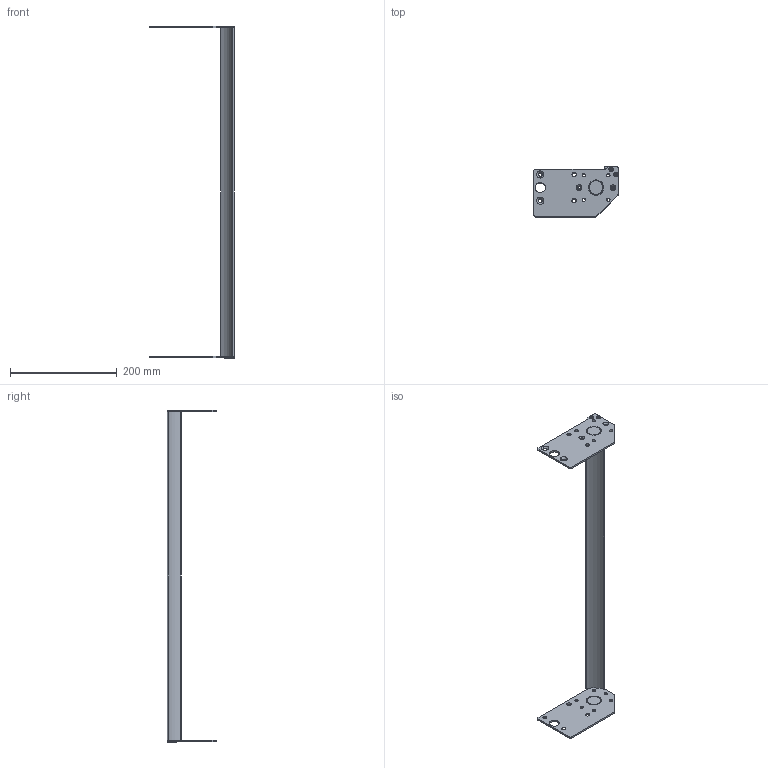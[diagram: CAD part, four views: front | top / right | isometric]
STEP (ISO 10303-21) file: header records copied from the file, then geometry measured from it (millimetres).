
FILE_DESCRIPTION((''),'2;1');
FILE_NAME('27M3300-28_ASM','2019-04-30T',('james.horst'),(''),'PRO/ENGINEER BY PARAMETRIC TECHNOLOGY CORPORATION, 2012420','PRO/ENGINEER BY PARAMETRIC TECHNOLOGY CORPORATION, 2012420','');
FILE_SCHEMA(('CONFIG_CONTROL_DESIGN'));
Length unit declared in the file: inch
Products named in the file (6): 350539-24; 350540; 350541; 930410M; 27M3300-10_ASM_1_ASM; 27M3300-28_ASM
Assembly tree (8 placements, depth 3):
  27M3300-28_ASM
    27M3300-10_ASM_1_ASM
      350539-24
      350540
      350541
      930410M  x4
Bounding box: 157.96 x 92.74 x 621.94 mm (x, y, z)
Volume: 252016.2 mm3; surface area: 124999.6 mm2
Topology: 7 solids, 11 shells, 206 faces, 556 edges, 368 vertices
Faces by surface type: cylinder 96, plane 70, cone 40
Entity records: 5540 total; most frequent: DIRECTION 1022, CARTESIAN_POINT 946, ORIENTED_EDGE 868, EDGE_CURVE 442, AXIS2_PLACEMENT_3D 408, VERTEX_POINT 296, CIRCLE 230, EDGE_LOOP 220
